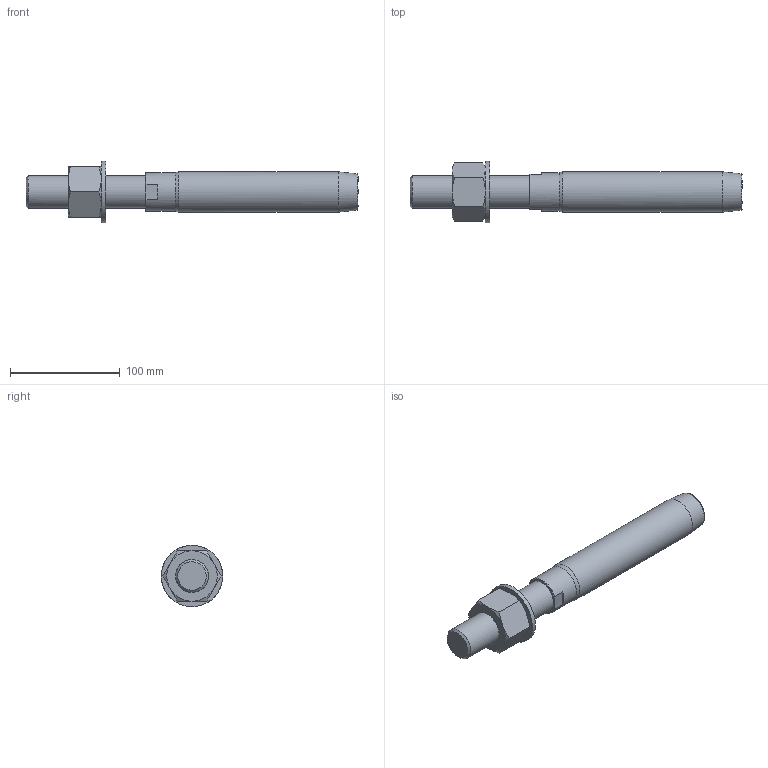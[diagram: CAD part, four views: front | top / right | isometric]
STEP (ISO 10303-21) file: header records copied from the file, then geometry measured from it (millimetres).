
FILE_DESCRIPTION(/* description */ (''),/* implementation_level */ '2;1');
FILE_NAME(/* name */ 'FLT 18_1,4462',/* time_stamp */ '2023-05-23T15:58:05+02:00',/* author */ (''),/* organization */ (''),/* preprocessor_version */ 'ST-DEVELOPER v16.5',/* originating_system */ 'Rhino 7.22',/* authorisation */ '');
FILE_SCHEMA (('CONFIG_CONTROL_DESIGN'));
Length unit declared in the file: millimetre
Products named in the file (1): Document
Bounding box: 303 x 55.98 x 55.98 mm (x, y, z)
Volume: 323177 mm3; surface area: 48142.9 mm2
Topology: 3 solids, 3 shells, 43 faces, 103 edges, 67 vertices
Faces by surface type: bspline 20, plane 17, cylinder 6
Full cylindrical faces by diameter (mm): 26.211 x1, 30 x1, 31 x1, 35 x1, 36.8 x1, 56 x1
Entity records: 1586 total; most frequent: CARTESIAN_POINT 881, ORIENTED_EDGE 206, EDGE_CURVE 103, VERTEX_POINT 67, EDGE_LOOP 48, ADVANCED_FACE 43, FACE_OUTER_BOUND 43, DIRECTION 27
